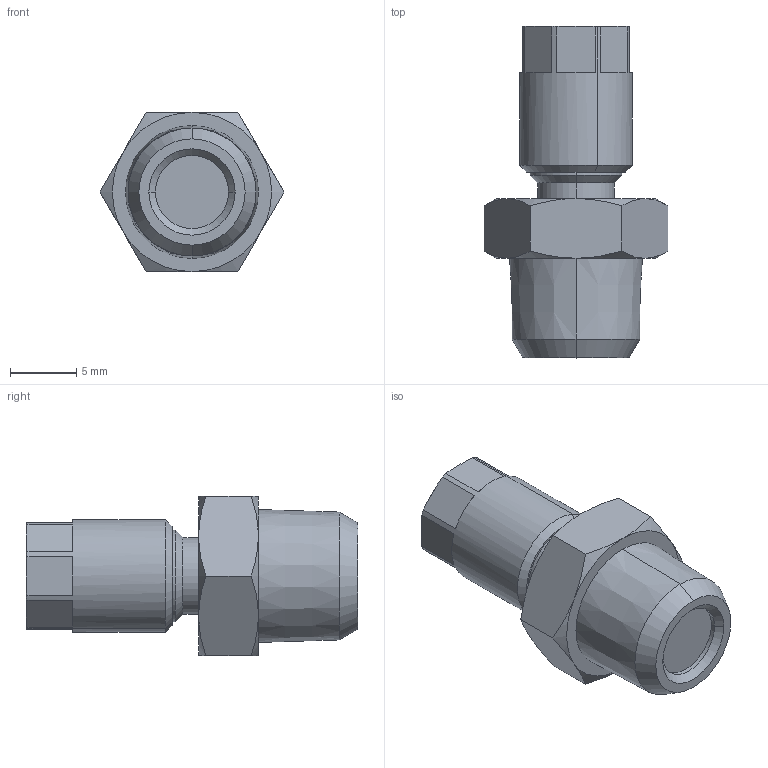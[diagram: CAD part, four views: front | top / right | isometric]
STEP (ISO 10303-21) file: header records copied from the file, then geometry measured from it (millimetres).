
FILE_DESCRIPTION (( 'STEP AP214' ), '1' );
FILE_NAME ('0100000002.step', '2012-09-28T13:16:46', ( '' ), ( '' ), 'SwSTEP 2.0', 'SolidWorks 2012', '' );
FILE_SCHEMA (( 'AUTOMOTIVE_DESIGN' ));
Length unit declared in the file: millimetre
Products named in the file (1): 0100000002
Bounding box: 13.86 x 25 x 12 mm (x, y, z)
Volume: 1732.2 mm3; surface area: 1029.8 mm2
Topology: 1 solids, 1 shells, 74 faces, 168 edges, 101 vertices
Faces by surface type: cone 33, plane 29, cylinder 10, torus 2
Entity records: 2999 total; most frequent: CARTESIAN_POINT 512, DIRECTION 353, ORIENTED_EDGE 336, EDGE_CURVE 168, AXIS2_PLACEMENT_3D 150, VERTEX_POINT 101, EDGE_LOOP 79, UNCERTAINTY_MEASURE_WITH_UNIT 77
